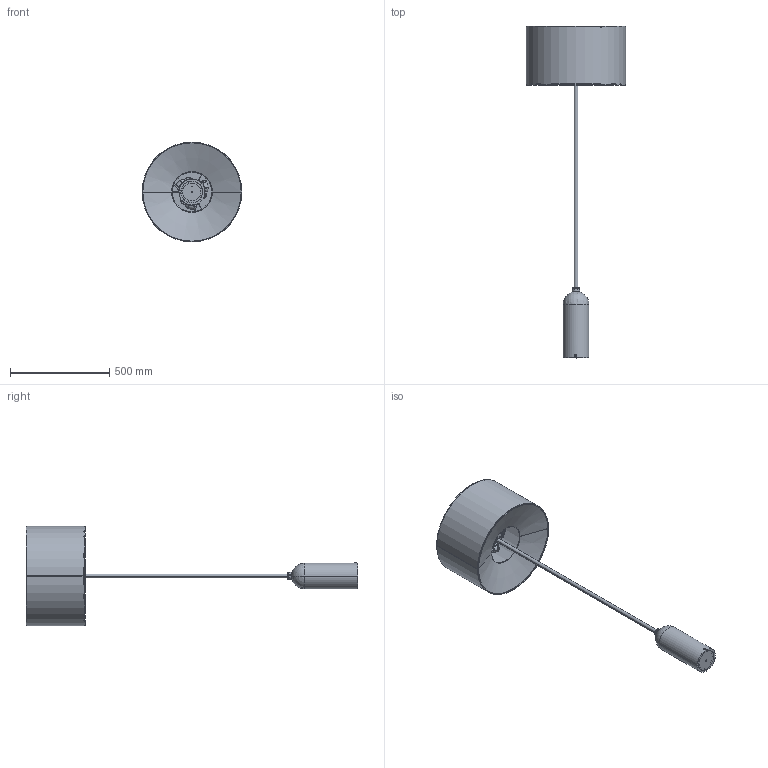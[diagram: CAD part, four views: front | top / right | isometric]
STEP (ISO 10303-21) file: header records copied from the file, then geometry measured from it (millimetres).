
FILE_DESCRIPTION((''),'2;1');
FILE_NAME('100-11-007-03_20180205_ASM','2018-02-05T',('ENG005'),(''),'CREO PARAMETRIC BY PTC INC, 2016260','CREO PARAMETRIC BY PTC INC, 2016260','');
FILE_SCHEMA(('CONFIG_CONTROL_DESIGN'));
Length unit declared in the file: millimetre
Products named in the file (40): 100-12-024-02_9_1; 100-12-032-02_12_1; 100-12-020-01_5_1; E27_STANDARD1_2_1; SERRATED_LOCK_WASHER_DIM_13INS_; HEXNUT_M10X1_3_1_1; 100-12-030-01_13_1; HEADLESS-SCREWS-M4X4_6_1; 100-12-028-01_5_1; MACHINE_SCREW_M3X5MM_3_1; SERRATED_LOCK_WASHER_DIM_27_INS; 100-12-041-01_6_1; 100-12-016-03_6_1; 100-12-011-01_4_1_1; 100-12-011-01_4_2_1; 100-12-011-01_4_3_1; 100-12-011-01_4_ASM_1_ASM; 100-12-023-01_5_1; M10X18MM_2_1; 100-12-013-01_5_1_1; 100-12-013-01_5_2_1; 100-12-013-01_5_ASM_1_ASM; 100-12-052-01_1_1; ISO10642-M4X8-8_8_5_1; MACHINE_SCREW_M4X10MM_1_1; 100-11-007-02_ASM_13_ASM_1_ASM; 1001203301_1; SLM691202501; SLM-1602083-26; 1001201501; SLM160208326; 100-11-007-03_ASM_ASM_1_ASM; 130DIAN_1; SLM-1602083-18; SLM-1602083-15; JBC; LZ; M4X8-CT; M6X8; 100-11-007-03_20180205_ASM
Assembly tree (54 placements, depth 5):
  100-11-007-03_20180205_ASM
    100-11-007-03_ASM_ASM_1_ASM
      100-11-007-02_ASM_13_ASM_1_ASM
        100-12-024-02_9_1
        100-12-032-02_12_1
        100-12-020-01_5_1  x3
        E27_STANDARD1_2_1  x3
        SERRATED_LOCK_WASHER_DIM_13INS_  x3
        HEXNUT_M10X1_3_1_1  x3
        100-12-030-01_13_1
        HEADLESS-SCREWS-M4X4_6_1  x4
        100-12-028-01_5_1
        MACHINE_SCREW_M3X5MM_3_1  x2
        SERRATED_LOCK_WASHER_DIM_27_INS
        100-12-041-01_6_1
        100-12-016-03_6_1
        100-12-011-01_4_ASM_1_ASM
          100-12-011-01_4_1_1
          100-12-011-01_4_2_1
          100-12-011-01_4_3_1
        100-12-023-01_5_1
        M10X18MM_2_1
        100-12-013-01_5_ASM_1_ASM
          100-12-013-01_5_1_1
          100-12-013-01_5_2_1
        100-12-052-01_1_1  x2
        ISO10642-M4X8-8_8_5_1  x2
        MACHINE_SCREW_M4X10MM_1_1  x2
      1001203301_1
      SLM691202501
      SLM-1602083-26
      1001201501
      SLM160208326
    130DIAN_1
    SLM-1602083-18
    SLM-1602083-15
    JBC
    LZ
    M4X8-CT
    M6X8
Bounding box: 503.56 x 1676.14 x 503.56 mm (x, y, z)
Volume: 4383246.1 mm3; surface area: 2275267 mm2
Topology: 49 solids, 50 shells, 1579 faces, 4144 edges, 2692 vertices
Faces by surface type: plane 802, cylinder 397, cone 199, torus 90, bspline 89, sphere 2
Entity records: 45090 total; most frequent: CARTESIAN_POINT 14854, ORIENTED_EDGE 6304, DIRECTION 6035, EDGE_CURVE 3152, AXIS2_PLACEMENT_3D 2224, VERTEX_POINT 2054, VECTOR 1587, LINE 1587
